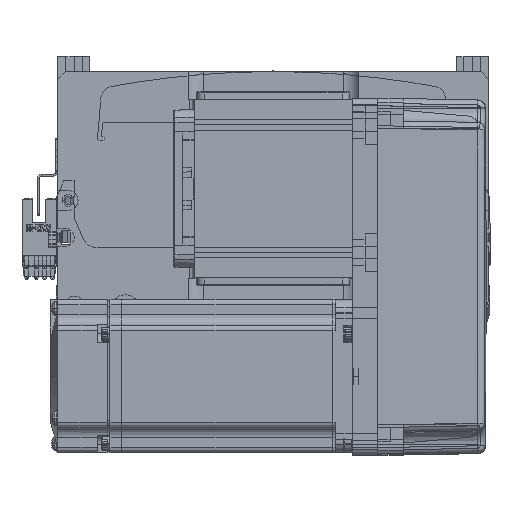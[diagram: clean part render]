
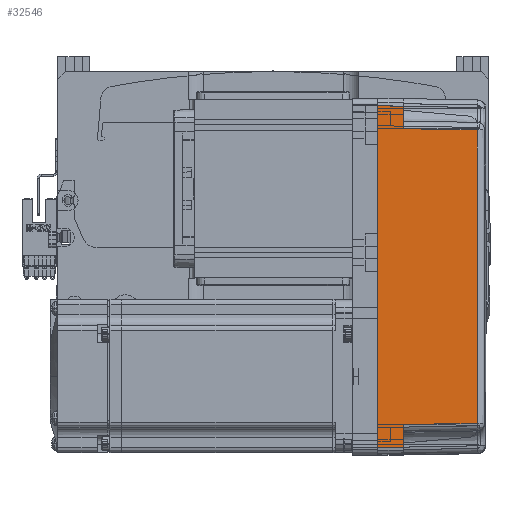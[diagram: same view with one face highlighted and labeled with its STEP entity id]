
A CAD part, top view. The second image highlights one B-rep face of the part: STEP entity #32546.
In plain terms, the highlighted planar face has unit normal (0.018, 0, 1) as drawn and (0, 1, 0.017) by its records, which use the part's own axes.
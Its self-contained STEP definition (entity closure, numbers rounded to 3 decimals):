
#2546 = VECTOR ( 'NONE', #11969, 1000. ) ;
#4384 = EDGE_CURVE ( 'NONE', #64376, #49683, #58868, .T. ) ;
#7412 = ORIENTED_EDGE ( 'NONE', *, *, #4384, .F. ) ;
#7547 = CARTESIAN_POINT ( 'NONE',  ( -57.495, 35.32, 38.985 ) ) ;
#7667 = EDGE_CURVE ( 'NONE', #39969, #64376, #62586, .T. ) ;
#8575 = EDGE_CURVE ( 'NONE', #31480, #56016, #22851, .T. ) ;
#9909 = ORIENTED_EDGE ( 'NONE', *, *, #52851, .T. ) ;
#10401 = CARTESIAN_POINT ( 'NONE',  ( 57.495, 35.32, 38.985 ) ) ;
#10615 = CARTESIAN_POINT ( 'NONE',  ( 70., 36., 0. ) ) ;
#10667 = CARTESIAN_POINT ( 'NONE',  ( -19.165, 35.316, 39.181 ) ) ;
#10832 = PLANE ( 'NONE',  #57241 ) ;
#11111 = LINE ( 'NONE', #58337, #24657 ) ;
#11969 = DIRECTION ( 'NONE',  ( 1., 0., 0. ) ) ;
#13548 = VECTOR ( 'NONE', #55873, 1000. ) ;
#14424 = CARTESIAN_POINT ( 'NONE',  ( 66.826, 35.825, 10. ) ) ;
#16364 = CARTESIAN_POINT ( 'NONE',  ( 70., 35.825, 10. ) ) ;
#16488 = DIRECTION ( 'NONE',  ( 0., 1., 0.017 ) ) ;
#16721 = DIRECTION ( 'NONE',  ( 0., -0.017, 1. ) ) ;
#17333 = CARTESIAN_POINT ( 'NONE',  ( 0., 36., 0. ) ) ;
#20595 = ORIENTED_EDGE ( 'NONE', *, *, #46294, .T. ) ;
#20992 = CARTESIAN_POINT ( 'NONE',  ( -67., 36., 0. ) ) ;
#21108 = DIRECTION ( 'NONE',  ( 0.017, -0.017, 1. ) ) ;
#21374 = ORIENTED_EDGE ( 'NONE', *, *, #7667, .F. ) ;
#21790 = LINE ( 'NONE', #68873, #64061 ) ;
#22016 = DIRECTION ( 'NONE',  ( 0.017, -0.017, 1. ) ) ;
#22851 = B_SPLINE_CURVE_WITH_KNOTS ( 'NONE', 3,
 ( #47500, #10667, #32180, #69278 ),
 .UNSPECIFIED., .F., .F.,
 ( 4, 4 ),
 ( 0., 1. ),
 .UNSPECIFIED. ) ;
#23439 = LINE ( 'NONE', #16364, #58977 ) ;
#24657 = VECTOR ( 'NONE', #41811, 1000. ) ;
#26913 = VERTEX_POINT ( 'NONE', #28632 ) ;
#28632 = CARTESIAN_POINT ( 'NONE',  ( -66.826, 35.825, 10. ) ) ;
#30345 = DIRECTION ( 'NONE',  ( -0.017, -0.017, 1. ) ) ;
#31480 = VERTEX_POINT ( 'NONE', #7547 ) ;
#32049 = VERTEX_POINT ( 'NONE', #58669 ) ;
#32180 = CARTESIAN_POINT ( 'NONE',  ( 19.165, 35.316, 39.181 ) ) ;
#32546 = ADVANCED_FACE ( 'NONE', ( #58425 ), #10832, .T. ) ;
#32919 = CARTESIAN_POINT ( 'NONE',  ( 58., 35.825, 10. ) ) ;
#33488 = CARTESIAN_POINT ( 'NONE',  ( 70., 35.825, 10. ) ) ;
#34712 = LINE ( 'NONE', #33488, #2546 ) ;
#35327 = EDGE_CURVE ( 'NONE', #32049, #31480, #53826, .T. ) ;
#39377 = CARTESIAN_POINT ( 'NONE',  ( 67.001, 36.001, -0.052 ) ) ;
#39449 = VECTOR ( 'NONE', #22016, 1000. ) ;
#39969 = VERTEX_POINT ( 'NONE', #20992 ) ;
#41811 = DIRECTION ( 'NONE',  ( 0.017, 0.017, -1. ) ) ;
#43209 = EDGE_LOOP ( 'NONE', ( #70176, #51425, #64123, #57303, #20595, #9909, #7412, #21374 ) ) ;
#46294 = EDGE_CURVE ( 'NONE', #56016, #59800, #11111, .T. ) ;
#47480 = CARTESIAN_POINT ( 'NONE',  ( 67., 36., 0. ) ) ;
#47500 = CARTESIAN_POINT ( 'NONE',  ( -57.495, 35.32, 38.985 ) ) ;
#48675 = VECTOR ( 'NONE', #30345, 1000. ) ;
#48960 = CARTESIAN_POINT ( 'NONE',  ( -58., 35.825, 10. ) ) ;
#49683 = VERTEX_POINT ( 'NONE', #14424 ) ;
#51425 = ORIENTED_EDGE ( 'NONE', *, *, #58536, .T. ) ;
#52851 = EDGE_CURVE ( 'NONE', #59800, #49683, #34712, .T. ) ;
#53826 = LINE ( 'NONE', #48960, #39449 ) ;
#55873 = DIRECTION ( 'NONE',  ( 1., 0., 0. ) ) ;
#56016 = VERTEX_POINT ( 'NONE', #10401 ) ;
#57241 = AXIS2_PLACEMENT_3D ( 'NONE', #10615, #16488, #16721 ) ;
#57303 = ORIENTED_EDGE ( 'NONE', *, *, #8575, .T. ) ;
#58337 = CARTESIAN_POINT ( 'NONE',  ( 57.495, 35.32, 38.985 ) ) ;
#58425 = FACE_OUTER_BOUND ( 'NONE', #43209, .T. ) ;
#58536 = EDGE_CURVE ( 'NONE', #26913, #32049, #23439, .T. ) ;
#58669 = CARTESIAN_POINT ( 'NONE',  ( -58., 35.825, 10. ) ) ;
#58868 = LINE ( 'NONE', #39377, #48675 ) ;
#58932 = DIRECTION ( 'NONE',  ( 1., 0., 0. ) ) ;
#58977 = VECTOR ( 'NONE', #58932, 1000. ) ;
#59800 = VERTEX_POINT ( 'NONE', #32919 ) ;
#62586 = LINE ( 'NONE', #17333, #13548 ) ;
#64061 = VECTOR ( 'NONE', #21108, 1000. ) ;
#64123 = ORIENTED_EDGE ( 'NONE', *, *, #35327, .T. ) ;
#64376 = VERTEX_POINT ( 'NONE', #47480 ) ;
#68873 = CARTESIAN_POINT ( 'NONE',  ( -67., 36., 0. ) ) ;
#69137 = EDGE_CURVE ( 'NONE', #39969, #26913, #21790, .T. ) ;
#69278 = CARTESIAN_POINT ( 'NONE',  ( 57.495, 35.32, 38.985 ) ) ;
#70176 = ORIENTED_EDGE ( 'NONE', *, *, #69137, .T. ) ;
